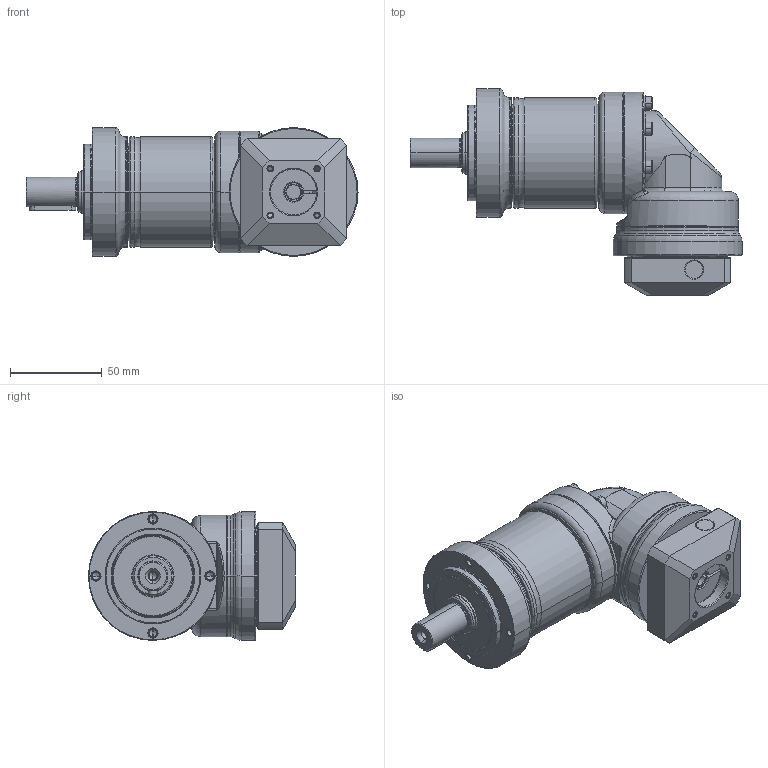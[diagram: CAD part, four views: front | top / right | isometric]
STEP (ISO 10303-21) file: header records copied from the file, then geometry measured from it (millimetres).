
FILE_DESCRIPTION((''),'2;1');
FILE_NAME('PE2R-070_2ST_8-P0411100101_ASM','2016-05-19T',('d00435'),(''),'PRO/ENGINEER BY PARAMETRIC TECHNOLOGY CORPORATION, 2008410','PRO/ENGINEER BY PARAMETRIC TECHNOLOGY CORPORATION, 2008410','');
FILE_SCHEMA(('CONFIG_CONTROL_DESIGN'));
Length unit declared in the file: millimetre
Products named in the file (12): P1323210001; P0251200001; P0350201001; P1349200001; P1017200001; P0713200001; P0503100005; P1350200001; P0411100101; P1702300001; 2111B104020; PE2R-070_2ST_8-P0411100101_ASM
Assembly tree (16 placements, depth 2):
  PE2R-070_2ST_8-P0411100101_ASM
    P1323210001
    P0251200001
    P0350201001
    P1349200001
    P1017200001
    P0713200001
    P0503100005
    P1350200001
    P0411100101
    P1702300001
    2111B104020  x6
Bounding box: 180.5 x 112.5 x 70 mm (x, y, z)
Volume: 373293.3 mm3; surface area: 115876 mm2
Topology: 16 solids, 32 shells, 854 faces, 1907 edges, 1129 vertices
Faces by surface type: cylinder 281, cone 218, plane 211, torus 112, bspline 32
Entity records: 25395 total; most frequent: CARTESIAN_POINT 9567, DIRECTION 3564, ORIENTED_EDGE 2998, EDGE_CURVE 1531, AXIS2_PLACEMENT_3D 1524, VERTEX_POINT 929, CIRCLE 829, EDGE_LOOP 792
